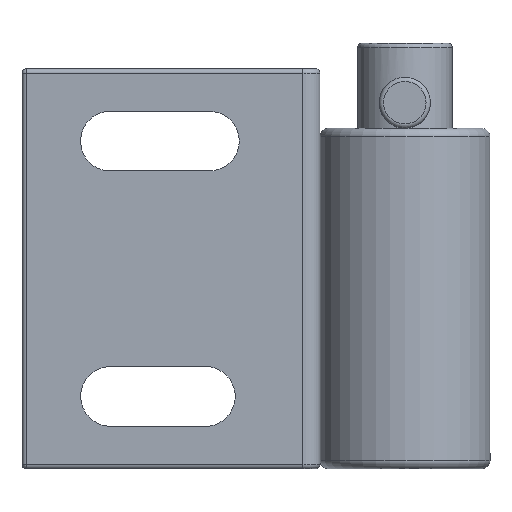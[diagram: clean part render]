
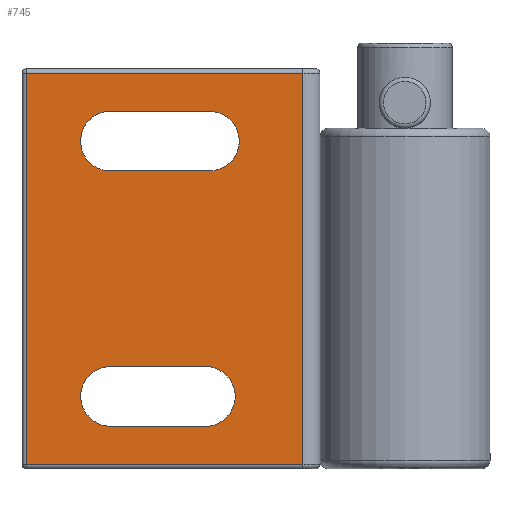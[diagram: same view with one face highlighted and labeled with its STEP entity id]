
A CAD part, left-side view. The second image highlights one B-rep face of the part: STEP entity #745.
In plain terms, the highlighted planar face has unit normal (-1, 0, 0).
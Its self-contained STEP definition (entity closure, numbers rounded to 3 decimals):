
#545=LINE('',#2071,#597);
#546=LINE('',#2076,#598);
#547=LINE('',#2079,#599);
#548=LINE('',#2082,#600);
#549=LINE('',#2084,#601);
#550=LINE('',#2086,#602);
#551=LINE('',#2090,#603);
#552=LINE('',#2094,#604);
#597=VECTOR('',#1730,1.);
#598=VECTOR('',#1733,1.);
#599=VECTOR('',#1736,1.);
#600=VECTOR('',#1737,1.);
#601=VECTOR('',#1738,1.);
#602=VECTOR('',#1739,1.);
#603=VECTOR('',#1742,1.);
#604=VECTOR('',#1745,1.);
#703=PLANE('',#1547);
#745=ADVANCED_FACE('',(#858,#859,#860),#703,.F.);
#858=FACE_BOUND('',#912,.T.);
#859=FACE_BOUND('',#913,.T.);
#860=FACE_BOUND('',#914,.T.);
#912=EDGE_LOOP('',(#1021,#1022,#1023,#1024));
#913=EDGE_LOOP('',(#1025,#1026,#1027,#1028));
#914=EDGE_LOOP('',(#1029,#1030,#1031,#1032));
#1021=ORIENTED_EDGE('',*,*,#1340,.F.);
#1022=ORIENTED_EDGE('',*,*,#1341,.F.);
#1023=ORIENTED_EDGE('',*,*,#1342,.F.);
#1024=ORIENTED_EDGE('',*,*,#1343,.F.);
#1025=ORIENTED_EDGE('',*,*,#1344,.F.);
#1026=ORIENTED_EDGE('',*,*,#1345,.T.);
#1027=ORIENTED_EDGE('',*,*,#1346,.T.);
#1028=ORIENTED_EDGE('',*,*,#1347,.T.);
#1029=ORIENTED_EDGE('',*,*,#1348,.F.);
#1030=ORIENTED_EDGE('',*,*,#1349,.F.);
#1031=ORIENTED_EDGE('',*,*,#1350,.F.);
#1032=ORIENTED_EDGE('',*,*,#1351,.F.);
#1259=VERTEX_POINT('',#2072);
#1260=VERTEX_POINT('',#2073);
#1261=VERTEX_POINT('',#2075);
#1262=VERTEX_POINT('',#2077);
#1263=VERTEX_POINT('',#2080);
#1264=VERTEX_POINT('',#2081);
#1265=VERTEX_POINT('',#2083);
#1266=VERTEX_POINT('',#2085);
#1267=VERTEX_POINT('',#2088);
#1268=VERTEX_POINT('',#2089);
#1269=VERTEX_POINT('',#2091);
#1270=VERTEX_POINT('',#2093);
#1340=EDGE_CURVE('',#1259,#1260,#545,.T.);
#1341=EDGE_CURVE('',#1261,#1259,#1457,.T.);
#1342=EDGE_CURVE('',#1262,#1261,#546,.T.);
#1343=EDGE_CURVE('',#1260,#1262,#1458,.T.);
#1344=EDGE_CURVE('',#1263,#1264,#547,.T.);
#1345=EDGE_CURVE('',#1263,#1265,#548,.T.);
#1346=EDGE_CURVE('',#1265,#1266,#549,.T.);
#1347=EDGE_CURVE('',#1266,#1264,#550,.T.);
#1348=EDGE_CURVE('',#1267,#1268,#1459,.T.);
#1349=EDGE_CURVE('',#1269,#1267,#551,.T.);
#1350=EDGE_CURVE('',#1270,#1269,#1460,.T.);
#1351=EDGE_CURVE('',#1268,#1270,#552,.T.);
#1457=CIRCLE('',#1543,3.533);
#1458=CIRCLE('',#1544,3.525);
#1459=CIRCLE('',#1545,3.5);
#1460=CIRCLE('',#1546,3.523);
#1543=AXIS2_PLACEMENT_3D('',#2074,#1731,#1732);
#1544=AXIS2_PLACEMENT_3D('',#2078,#1734,#1735);
#1545=AXIS2_PLACEMENT_3D('',#2087,#1740,#1741);
#1546=AXIS2_PLACEMENT_3D('',#2092,#1743,#1744);
#1547=AXIS2_PLACEMENT_3D('',#2095,#1746,#1747);
#1730=DIRECTION('',(0.,1.,0.));
#1731=DIRECTION('',(-1.,0.,0.));
#1732=DIRECTION('',(0.,1.,0.));
#1733=DIRECTION('',(0.,-1.,0.));
#1734=DIRECTION('',(-1.,0.,0.));
#1735=DIRECTION('',(0.,1.,0.));
#1736=DIRECTION('',(0.,0.,-1.));
#1737=DIRECTION('',(0.,1.,0.));
#1738=DIRECTION('',(0.,0.,-1.));
#1739=DIRECTION('',(0.,-1.,0.));
#1740=DIRECTION('',(-1.,0.,0.));
#1741=DIRECTION('',(0.,1.,0.));
#1742=DIRECTION('',(0.,-1.,0.));
#1743=DIRECTION('',(-1.,0.,0.));
#1744=DIRECTION('',(0.,1.,0.));
#1745=DIRECTION('',(0.,1.,0.));
#1746=DIRECTION('',(1.,0.,0.));
#1747=DIRECTION('',(0.,1.,0.));
#2071=CARTESIAN_POINT('',(0.,35.,12.));
#2072=CARTESIAN_POINT('',(0.,13.,12.));
#2073=CARTESIAN_POINT('',(0.,25.,12.));
#2074=CARTESIAN_POINT('',(0.,13.484,8.5));
#2075=CARTESIAN_POINT('',(0.,13.,5.));
#2076=CARTESIAN_POINT('',(0.,35.,5.));
#2077=CARTESIAN_POINT('',(0.,25.,5.));
#2078=CARTESIAN_POINT('',(0.,24.578,8.5));
#2079=CARTESIAN_POINT('',(0.,2.,47.));
#2080=CARTESIAN_POINT('',(0.,2.,46.5));
#2081=CARTESIAN_POINT('',(0.,2.,0.5));
#2082=CARTESIAN_POINT('',(0.,35.,46.5));
#2083=CARTESIAN_POINT('',(0.,34.5,46.5));
#2084=CARTESIAN_POINT('',(0.,34.5,47.));
#2085=CARTESIAN_POINT('',(0.,34.5,0.5));
#2086=CARTESIAN_POINT('',(0.,35.,0.5));
#2087=CARTESIAN_POINT('',(0.,12.976,38.5));
#2088=CARTESIAN_POINT('',(0.,13.,35.));
#2089=CARTESIAN_POINT('',(0.,13.,42.));
#2090=CARTESIAN_POINT('',(0.,35.,35.));
#2091=CARTESIAN_POINT('',(0.,25.,35.));
#2092=CARTESIAN_POINT('',(0.,24.595,38.5));
#2093=CARTESIAN_POINT('',(0.,25.,42.));
#2094=CARTESIAN_POINT('',(0.,35.,42.));
#2095=CARTESIAN_POINT('',(0.,35.,47.));
